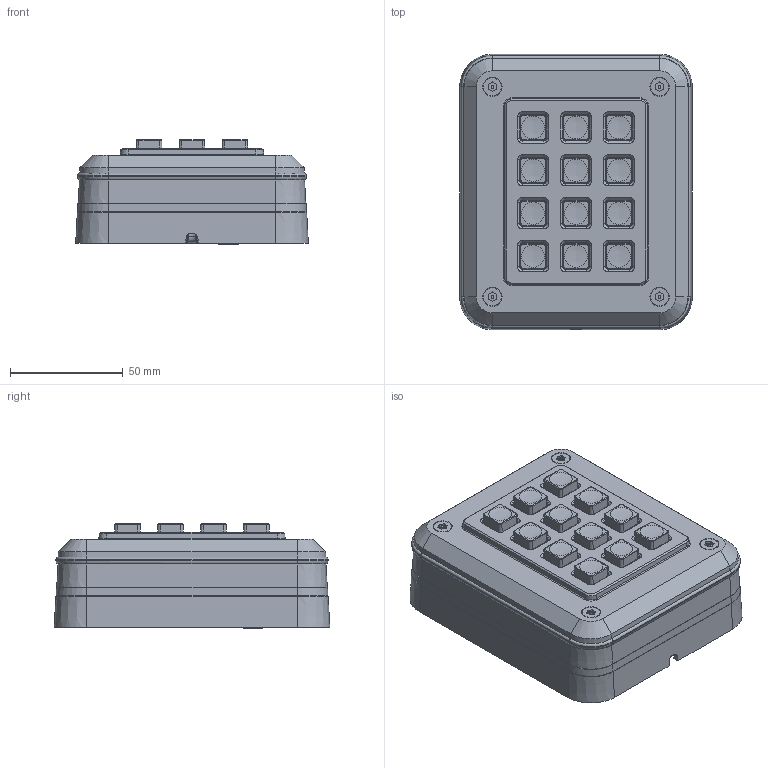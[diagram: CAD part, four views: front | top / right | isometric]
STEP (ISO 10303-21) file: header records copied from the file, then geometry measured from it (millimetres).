
FILE_DESCRIPTION (( 'STEP AP214' ), '1' );
FILE_NAME ('K-RANGE_KEYPAD_12-WAY_+_REAR_CASE~1.STEP', '2019-01-15T16:25:15', ( '' ), ( '' ), 'SwSTEP 2.0', 'SolidWorks 2018', '' );
FILE_SCHEMA (( 'AUTOMOTIVE_DESIGN' ));
Length unit declared in the file: millimetre
Products named in the file (1): K-RANGE_KEYPAD_12-WAY_+_REAR_CASE~1
Bounding box: 103.04 x 122.04 x 46.15 mm (x, y, z)
Volume: 178080.4 mm3; surface area: 103007.7 mm2
Topology: 1 solids, 28 shells, 2702 faces, 6598 edges, 4110 vertices
Faces by surface type: plane 1201, cylinder 528, cone 402, bspline 270, torus 242, sphere 59
Full cylindrical faces by diameter (mm): 1 x2, 1.2 x4, 1.5 x4, 1.9 x1, 2 x4, 2.3 x4, 2.4 x6, 3.2 x8, 4.2 x4, 4.8 x1, 6 x4, 10.8 x1, 13 x1, 15 x1, 20 x1
Entity records: 116292 total; most frequent: CARTESIAN_POINT 27316, ORIENTED_EDGE 12406, DIRECTION 11811, EDGE_CURVE 6203, AXIS2_PLACEMENT_3D 4402, VERTEX_POINT 3971, EDGE_LOOP 3146, VECTOR 3007
